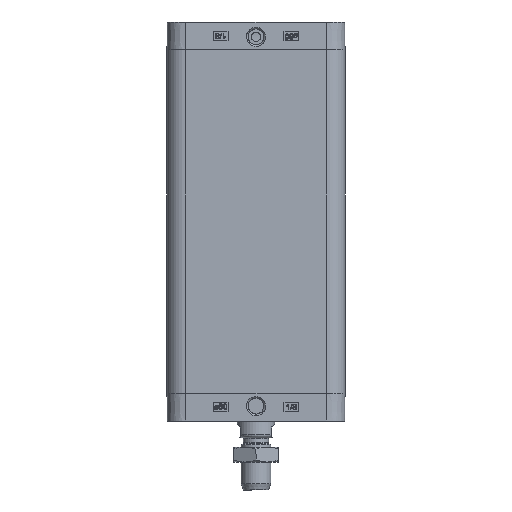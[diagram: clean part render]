
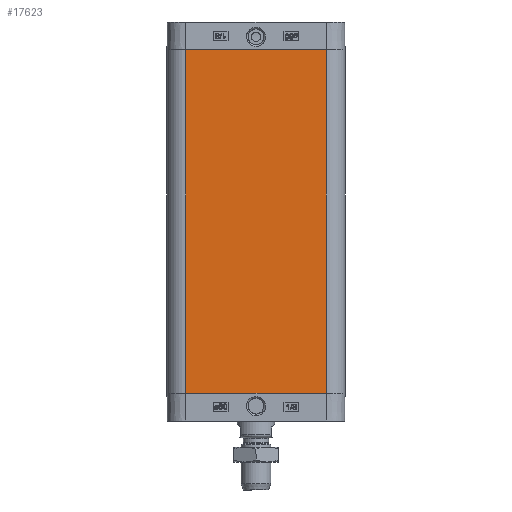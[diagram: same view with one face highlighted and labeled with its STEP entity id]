
A CAD part, left-side view. The second image highlights one B-rep face of the part: STEP entity #17623.
In plain terms, the highlighted planar face has unit normal (-1, 0, 0).
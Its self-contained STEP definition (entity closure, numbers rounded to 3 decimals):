
#1033=PLANE('',#18637);
#1951=LINE('',#27266,#3025);
#1952=LINE('',#27268,#3026);
#1953=LINE('',#27270,#3027);
#1954=LINE('',#27272,#3028);
#3025=VECTOR('',#21465,1000.);
#3026=VECTOR('',#21468,1000.);
#3027=VECTOR('',#21469,1000.);
#3028=VECTOR('',#21470,1000.);
#6176=ORIENTED_EDGE('',*,*,#8448,.T.);
#6177=ORIENTED_EDGE('',*,*,#8447,.F.);
#6178=ORIENTED_EDGE('',*,*,#8449,.F.);
#6179=ORIENTED_EDGE('',*,*,#8450,.T.);
#8447=EDGE_CURVE('',#9870,#9867,#1951,.T.);
#8448=EDGE_CURVE('',#9871,#9867,#1952,.T.);
#8449=EDGE_CURVE('',#9872,#9870,#1953,.T.);
#8450=EDGE_CURVE('',#9872,#9871,#1954,.T.);
#9867=VERTEX_POINT('',#27260);
#9870=VERTEX_POINT('',#27265);
#9871=VERTEX_POINT('',#27269);
#9872=VERTEX_POINT('',#27271);
#11348=EDGE_LOOP('',(#6176,#6177,#6178,#6179));
#12296=FACE_BOUND('',#11348,.T.);
#17623=ADVANCED_FACE('',(#12296),#1033,.T.);
#18637=AXIS2_PLACEMENT_3D('',#27267,#21466,#21467);
#21465=DIRECTION('',(0.,0.,1.));
#21466=DIRECTION('',(-1.,0.,0.));
#21467=DIRECTION('',(0.,0.,1.));
#21468=DIRECTION('',(0.,1.,0.));
#21469=DIRECTION('',(0.,1.,0.));
#21470=DIRECTION('',(0.,0.,1.));
#27260=CARTESIAN_POINT('',(-47.75,37.75,29.));
#27265=CARTESIAN_POINT('',(-47.75,37.75,-155.));
#27266=CARTESIAN_POINT('',(-47.75,37.75,0.));
#27267=CARTESIAN_POINT('',(-47.75,-37.75,0.));
#27268=CARTESIAN_POINT('',(-47.75,-37.75,29.));
#27269=CARTESIAN_POINT('',(-47.75,-37.75,29.));
#27270=CARTESIAN_POINT('',(-47.75,-37.75,-155.));
#27271=CARTESIAN_POINT('',(-47.75,-37.75,-155.));
#27272=CARTESIAN_POINT('',(-47.75,-37.75,0.));
